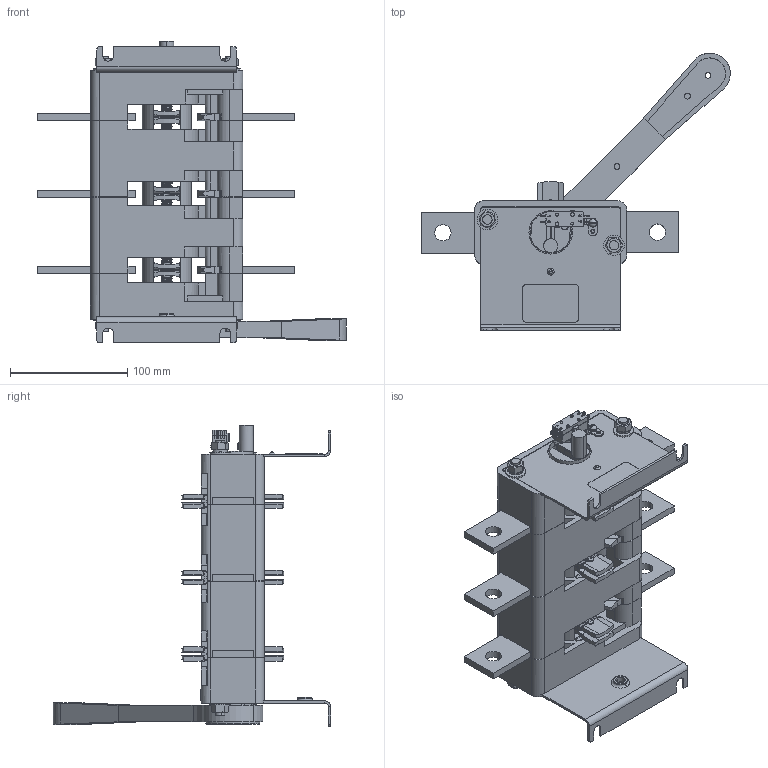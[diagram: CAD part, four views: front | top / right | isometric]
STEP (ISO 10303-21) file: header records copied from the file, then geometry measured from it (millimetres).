
FILE_DESCRIPTION (( 'STEP AP214' ), '1' );
FILE_NAME ('ﾂﾐ32-39ﾔ ﾃﾆﾈﾊ.642523.009-04 (ﾀ30221-630ﾀ).STEP', '2022-07-14T13:04:15', ( '' ), ( '' ), 'SwSTEP 2.0', 'SolidWorks 2018', '' );
FILE_SCHEMA (( 'AUTOMOTIVE_DESIGN' ));
Length unit declared in the file: millimetre
Products named in the file (34): ﾂ琿 ﾃﾆﾈﾊ.715274.004; Êîðïóñ ëåâûé ÃÆÈÊ.735384.050; Îáîëî÷êà 630À _¤«ï ç¥àâ¥¦ ; ﾏ跖浯 ﾃﾆﾈﾊ.753553.013_-01 (癸ｮ爼); ﾘ琺矜 4; 想囫蜩磬_闷仁.745355.028; 想囫蜩磬_闷仁.745355.016; ﾏ跖浯_ﾃﾆﾈﾊ.753553.012_-01 (癸ｮ爼); 务黖闷仁.715411.020; Ïðîêëàäêà ÃÆÈÊ.741233.006_-01(¤«ï ç¥àâ¥¦ ); 澡犟囹铕 忄豚 闷仁.745484.008.SLDDRW; ﾘ琺矜 8 65ﾃ 016; Òàáëè÷êà äëÿ ñáîðêè ÷èñòàÿ; 暑痫篑 镳噔 闷仁.735384.048; Êîíòàêò ïîäâèæíûé ÃÆÈÊ.685179.146; 枔膴闀歑樏錌欑蠈錪 蟠61; 澡犟囹铕_闷仁.745484.007; ﾂﾐ32-39ﾔ ﾃﾆﾈﾊ.642523.009-04 (ﾀ30221-630ﾀ); 想囫蜩磬_闷仁.301714.004; Áîêîâèíà ëåâàÿ ÃÆÈÊ.735224.029_-01(à¥§ì¡ ); Òàáëè÷êà äëÿ ñáîðêè ÷èñòàÿ áîëüøàÿ; Ðóêîÿòêà ÃÆÈÊ.303658.016_¤«ï ç¥àâ¥¦ ; Øïèëüêà Ì8 ÃÆÈÊ.758292.006; Áîêîâèíà ïðàâàÿ_ÃÆÈÊ.735224.028; ﾘ琺矜 8 ﾃﾆﾈﾊ.758491.024; 蓐聆屙蝠桕 闷仁.751621.003; ﾊ煇鳫 ﾃﾆﾈﾊ.745357.005; Âèíò Â.Ì4-6g_-00 (Œ4å8); ﾂ鏆鮏 ﾃﾆﾈﾊ.745485.006; Êîíòàêò ïîäâèæíûé_ÃÆÈÊ.745355.014; Ãàéêà 2Ì8-6Í.5.016; 想囫蜩磬_闷仁.745355.030; 青汶篪赅 闷仁.735211.004; Êîðïóñ ñðåäíèé ÃÆÈÊ.735384.049
Assembly tree (58 placements, depth 4):
  ﾂﾐ32-39ﾔ ﾃﾆﾈﾊ.642523.009-04 (ﾀ30221-630ﾀ)
    Êîðïóñ ëåâûé ÃÆÈÊ.735384.050
    暑痫篑 镳噔 闷仁.735384.048
    Êîðïóñ ñðåäíèé ÃÆÈÊ.735384.049  x2
    ﾂ琿 ﾃﾆﾈﾊ.715274.004
    Êîíòàêò ïîäâèæíûé ÃÆÈÊ.685179.146  x3
      想囫蜩磬_闷仁.745355.016
      务黖闷仁.715411.020
      Êîíòàêò ïîäâèæíûé_ÃÆÈÊ.745355.014
      澡犟囹铕_闷仁.745484.007
      ﾏ跖浯_ﾃﾆﾈﾊ.753553.012_-01 (癸ｮ爼)
    Áîêîâèíà ëåâàÿ ÃÆÈÊ.735224.029_-01(à¥§ì¡ )
    Áîêîâèíà ïðàâàÿ_ÃÆÈÊ.735224.028
    澡犟囹铕 忄豚 闷仁.745484.008.SLDDRW  x2
    ﾏ跖浯 ﾃﾆﾈﾊ.753553.013_-01 (癸ｮ爼)  x2
    Ïðîêëàäêà ÃÆÈÊ.741233.006_-01(¤«ï ç¥àâ¥¦ )  x2
    蓐聆屙蝠桕 闷仁.751621.003
    Øïèëüêà Ì8 ÃÆÈÊ.758292.006  x2
    Ãàéêà 2Ì8-6Í.5.016  x4
    ﾘ琺矜 8 65ﾃ 016  x2
    ﾘ琺矜 8 ﾃﾆﾈﾊ.758491.024  x4
    ﾂ鏆鮏 ﾃﾆﾈﾊ.745485.006  x6
    ﾊ煇鳫 ﾃﾆﾈﾊ.745357.005
    枔膴闀歑樏錌欑蠈錪 蟠61
    Âèíò Â.Ì4-6g_-00 (Œ4å8)
    ﾘ琺矜 4
    Ðóêîÿòêà ÃÆÈÊ.303658.016_¤«ï ç¥àâ¥¦ 
      Îáîëî÷êà 630À _¤«ï ç¥àâ¥¦ 
      想囫蜩磬_闷仁.301714.004
        想囫蜩磬_闷仁.745355.028
        想囫蜩磬_闷仁.745355.030
    青汶篪赅 闷仁.735211.004
    Òàáëè÷êà äëÿ ñáîðêè ÷èñòàÿ
    Òàáëè÷êà äëÿ ñáîðêè ÷èñòàÿ áîëüøàÿ
Bounding box: 263.25 x 236.75 x 257.1 mm (x, y, z)
Volume: 1012673 mm3; surface area: 481338.1 mm2
Topology: 75 solids, 75 shells, 2732 faces, 6753 edges, 4244 vertices
Faces by surface type: plane 1597, cylinder 922, bspline 109, cone 74, torus 28, sphere 2
Entity records: 56511 total; most frequent: CARTESIAN_POINT 18352, DIRECTION 7557, ORIENTED_EDGE 7268, EDGE_CURVE 3634, AXIS2_PLACEMENT_3D 2622, VERTEX_POINT 2340, VECTOR 2313, LINE 2313
